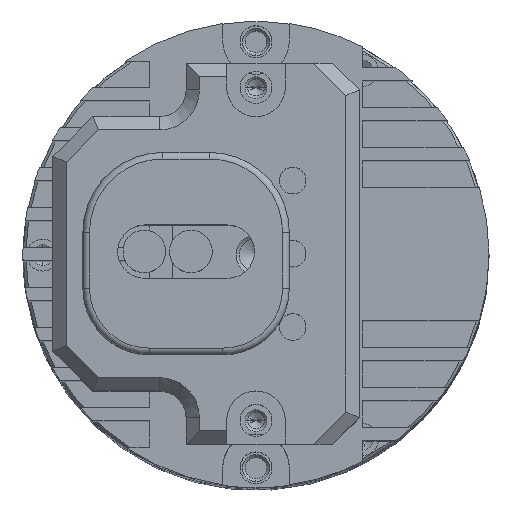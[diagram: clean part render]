
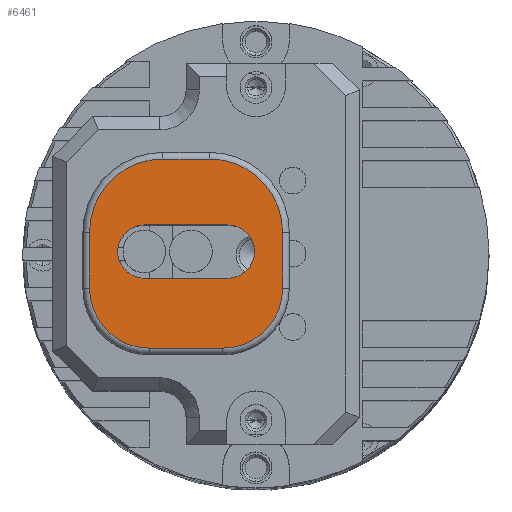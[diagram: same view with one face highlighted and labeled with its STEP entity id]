
A CAD part, top view. The second image highlights one B-rep face of the part: STEP entity #6461.
In plain terms, the highlighted planar face has unit normal (0, 0, 1).
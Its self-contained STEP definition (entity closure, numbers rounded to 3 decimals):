
#154 = EDGE_CURVE ( 'NONE', #18024, #11194, #11647, .T. ) ;
#208 = ORIENTED_EDGE ( 'NONE', *, *, #7781, .T. ) ;
#415 = VECTOR ( 'NONE', #17206, 1000. ) ;
#463 = LINE ( 'NONE', #19654, #12893 ) ;
#1088 = VERTEX_POINT ( 'NONE', #7325 ) ;
#1153 = CIRCLE ( 'NONE', #12201, 5.5 ) ;
#1517 = EDGE_CURVE ( 'NONE', #13646, #10496, #15205, .T. ) ;
#1752 = VERTEX_POINT ( 'NONE', #8550 ) ;
#1994 = DIRECTION ( 'NONE',  ( 0., 0., 1. ) ) ;
#2227 = DIRECTION ( 'NONE',  ( 0., 0., 1. ) ) ;
#2408 = EDGE_LOOP ( 'NONE', ( #6634, #3786, #208, #4057 ) ) ;
#2550 = DIRECTION ( 'NONE',  ( 0., -1., 0. ) ) ;
#2691 = VERTEX_POINT ( 'NONE', #16924 ) ;
#2798 = CARTESIAN_POINT ( 'NONE',  ( -6., -0.5, 16.5 ) ) ;
#3029 = EDGE_CURVE ( 'NONE', #9236, #5501, #1153, .T. ) ;
#3083 = CARTESIAN_POINT ( 'NONE',  ( -9.45, -10.886, 16.5 ) ) ;
#3196 = CARTESIAN_POINT ( 'NONE',  ( -10.2, -0.5, 16.5 ) ) ;
#3403 = VECTOR ( 'NONE', #5945, 1000. ) ;
#3432 = CARTESIAN_POINT ( 'NONE',  ( -9.45, -4.614, 16.5 ) ) ;
#3637 = EDGE_LOOP ( 'NONE', ( #19808, #15139, #16686, #19392, #14653, #12513, #19239, #18138 ) ) ;
#3648 = EDGE_CURVE ( 'NONE', #1752, #9236, #4451, .T. ) ;
#3786 = ORIENTED_EDGE ( 'NONE', *, *, #10521, .T. ) ;
#3821 = CARTESIAN_POINT ( 'NONE',  ( -14.7, -10.5, 16.5 ) ) ;
#3878 = LINE ( 'NONE', #3196, #3403 ) ;
#4057 = ORIENTED_EDGE ( 'NONE', *, *, #19599, .T. ) ;
#4451 = LINE ( 'NONE', #6536, #415 ) ;
#4575 = EDGE_CURVE ( 'NONE', #5501, #2691, #18843, .T. ) ;
#4707 = DIRECTION ( 'NONE',  ( -1., 0., 0. ) ) ;
#4928 = CIRCLE ( 'NONE', #8588, 2. ) ;
#4956 = DIRECTION ( 'NONE',  ( 0., 1., 0. ) ) ;
#5364 = DIRECTION ( 'NONE',  ( 0., 0., 1. ) ) ;
#5501 = VERTEX_POINT ( 'NONE', #16467 ) ;
#5945 = DIRECTION ( 'NONE',  ( -1., 0., 0. ) ) ;
#6196 = DIRECTION ( 'NONE',  ( 0., 0., -1. ) ) ;
#6263 = DIRECTION ( 'NONE',  ( 0., 0., -1. ) ) ;
#6311 = CARTESIAN_POINT ( 'NONE',  ( -0.5, -6., 16.5 ) ) ;
#6461 = ADVANCED_FACE ( 'NONE', ( #16315, #15836 ), #13001, .T. ) ;
#6536 = CARTESIAN_POINT ( 'NONE',  ( -6., -15., 16.5 ) ) ;
#6541 = DIRECTION ( 'NONE',  ( 1., 0., 0. ) ) ;
#6634 = ORIENTED_EDGE ( 'NONE', *, *, #1517, .T. ) ;
#6891 = DIRECTION ( 'NONE',  ( 0., -1., 0. ) ) ;
#7105 = EDGE_CURVE ( 'NONE', #11194, #1752, #8113, .T. ) ;
#7325 = CARTESIAN_POINT ( 'NONE',  ( -10.2, -0.5, 16.5 ) ) ;
#7681 = CARTESIAN_POINT ( 'NONE',  ( -9.45, -4.614, 16.5 ) ) ;
#7781 = EDGE_CURVE ( 'NONE', #17816, #11154, #463, .T. ) ;
#7790 = DIRECTION ( 'NONE',  ( -1., 0., 0. ) ) ;
#7798 = CARTESIAN_POINT ( 'NONE',  ( -7.45, -4.614, 16.5 ) ) ;
#8068 = DIRECTION ( 'NONE',  ( 0., 0., 1. ) ) ;
#8113 = CIRCLE ( 'NONE', #16863, 4.5 ) ;
#8190 = CARTESIAN_POINT ( 'NONE',  ( -6., -6., 16.5 ) ) ;
#8550 = CARTESIAN_POINT ( 'NONE',  ( -10.2, -15., 16.5 ) ) ;
#8588 = AXIS2_PLACEMENT_3D ( 'NONE', #10931, #6263, #7790 ) ;
#9236 = VERTEX_POINT ( 'NONE', #18877 ) ;
#9470 = CARTESIAN_POINT ( 'NONE',  ( -10.2, -5., 16.5 ) ) ;
#9477 = DIRECTION ( 'NONE',  ( 1., 0., 0. ) ) ;
#9686 = CARTESIAN_POINT ( 'NONE',  ( -10.2, -10.5, 16.5 ) ) ;
#10120 = DIRECTION ( 'NONE',  ( 1., 0., 0. ) ) ;
#10496 = VERTEX_POINT ( 'NONE', #7681 ) ;
#10521 = EDGE_CURVE ( 'NONE', #10496, #17816, #19143, .T. ) ;
#10931 = CARTESIAN_POINT ( 'NONE',  ( -7.45, -10.886, 16.5 ) ) ;
#11154 = VERTEX_POINT ( 'NONE', #18529 ) ;
#11194 = VERTEX_POINT ( 'NONE', #17334 ) ;
#11647 = LINE ( 'NONE', #3821, #16945 ) ;
#12201 = AXIS2_PLACEMENT_3D ( 'NONE', #14457, #14587, #17494 ) ;
#12513 = ORIENTED_EDGE ( 'NONE', *, *, #154, .T. ) ;
#12751 = EDGE_CURVE ( 'NONE', #1088, #18024, #18845, .T. ) ;
#12893 = VECTOR ( 'NONE', #2550, 1000. ) ;
#13001 = PLANE ( 'NONE',  #19268 ) ;
#13387 = EDGE_CURVE ( 'NONE', #2691, #18910, #16417, .T. ) ;
#13518 = CARTESIAN_POINT ( 'NONE',  ( -5.45, -4.614, 16.5 ) ) ;
#13646 = VERTEX_POINT ( 'NONE', #3083 ) ;
#13710 = AXIS2_PLACEMENT_3D ( 'NONE', #7798, #6196, #4707 ) ;
#13878 = DIRECTION ( 'NONE',  ( 0., 1., 0. ) ) ;
#14457 = CARTESIAN_POINT ( 'NONE',  ( -6., -9.5, 16.5 ) ) ;
#14587 = DIRECTION ( 'NONE',  ( 0., 0., 1. ) ) ;
#14653 = ORIENTED_EDGE ( 'NONE', *, *, #12751, .T. ) ;
#14762 = AXIS2_PLACEMENT_3D ( 'NONE', #8190, #2227, #15982 ) ;
#15139 = ORIENTED_EDGE ( 'NONE', *, *, #4575, .T. ) ;
#15205 = LINE ( 'NONE', #3432, #15720 ) ;
#15465 = VECTOR ( 'NONE', #13878, 1000. ) ;
#15720 = VECTOR ( 'NONE', #4956, 1000. ) ;
#15836 = FACE_OUTER_BOUND ( 'NONE', #3637, .T. ) ;
#15982 = DIRECTION ( 'NONE',  ( 1., 0., 0. ) ) ;
#16059 = EDGE_CURVE ( 'NONE', #18910, #1088, #3878, .T. ) ;
#16128 = CARTESIAN_POINT ( 'NONE',  ( -14.7, -5., 16.5 ) ) ;
#16315 = FACE_BOUND ( 'NONE', #2408, .T. ) ;
#16417 = CIRCLE ( 'NONE', #14762, 5.5 ) ;
#16467 = CARTESIAN_POINT ( 'NONE',  ( -0.5, -9.5, 16.5 ) ) ;
#16686 = ORIENTED_EDGE ( 'NONE', *, *, #13387, .T. ) ;
#16863 = AXIS2_PLACEMENT_3D ( 'NONE', #9686, #1994, #9477 ) ;
#16924 = CARTESIAN_POINT ( 'NONE',  ( -0.5, -6., 16.5 ) ) ;
#16945 = VECTOR ( 'NONE', #6891, 1000. ) ;
#17206 = DIRECTION ( 'NONE',  ( 1., 0., 0. ) ) ;
#17334 = CARTESIAN_POINT ( 'NONE',  ( -14.7, -10.5, 16.5 ) ) ;
#17347 = AXIS2_PLACEMENT_3D ( 'NONE', #9470, #8068, #6541 ) ;
#17494 = DIRECTION ( 'NONE',  ( 1., 0., 0. ) ) ;
#17656 = CARTESIAN_POINT ( 'NONE',  ( -10.2, -10.5, 16.5 ) ) ;
#17816 = VERTEX_POINT ( 'NONE', #13518 ) ;
#18024 = VERTEX_POINT ( 'NONE', #16128 ) ;
#18138 = ORIENTED_EDGE ( 'NONE', *, *, #3648, .T. ) ;
#18529 = CARTESIAN_POINT ( 'NONE',  ( -5.45, -10.886, 16.5 ) ) ;
#18843 = LINE ( 'NONE', #6311, #15465 ) ;
#18845 = CIRCLE ( 'NONE', #17347, 4.5 ) ;
#18877 = CARTESIAN_POINT ( 'NONE',  ( -6., -15., 16.5 ) ) ;
#18910 = VERTEX_POINT ( 'NONE', #2798 ) ;
#19143 = CIRCLE ( 'NONE', #13710, 2. ) ;
#19239 = ORIENTED_EDGE ( 'NONE', *, *, #7105, .T. ) ;
#19268 = AXIS2_PLACEMENT_3D ( 'NONE', #17656, #5364, #10120 ) ;
#19392 = ORIENTED_EDGE ( 'NONE', *, *, #16059, .T. ) ;
#19599 = EDGE_CURVE ( 'NONE', #11154, #13646, #4928, .T. ) ;
#19654 = CARTESIAN_POINT ( 'NONE',  ( -5.45, -10.886, 16.5 ) ) ;
#19808 = ORIENTED_EDGE ( 'NONE', *, *, #3029, .T. ) ;
